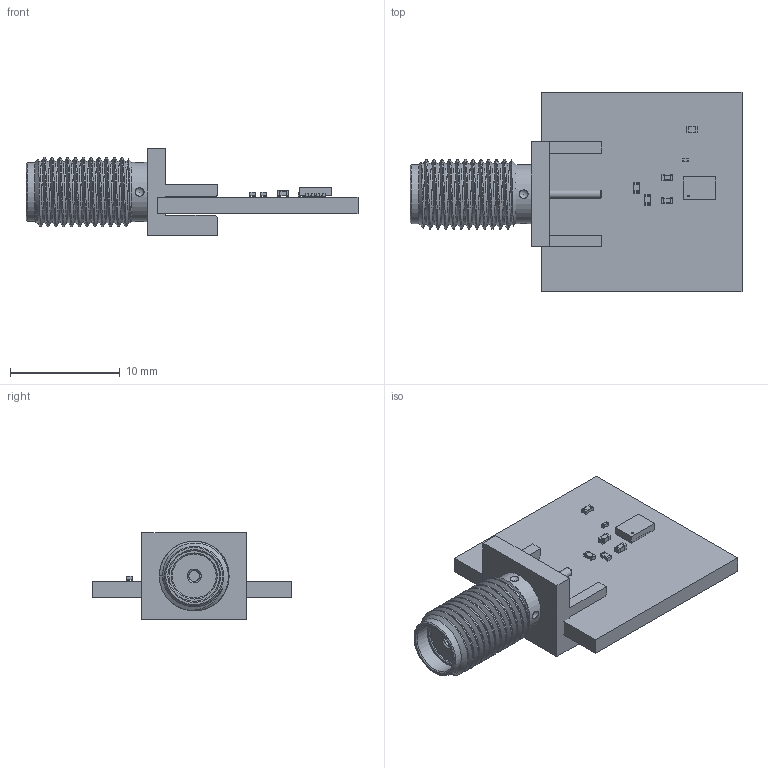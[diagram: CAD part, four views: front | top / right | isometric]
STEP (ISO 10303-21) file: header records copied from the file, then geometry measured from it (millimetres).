
FILE_DESCRIPTION(('KiCad electronic assembly'),'2;1');
FILE_NAME('ad8317_powermeter_FEM.step','2026-08-11T14:20:59',('Pcbnew'), ('Kicad'),'Open CASCADE STEP processor 7.9','KiCad to STEP converter', 'Unknown');
FILE_SCHEMA(('AUTOMOTIVE_DESIGN { 1 0 10303 214 1 1 1 1 }'));
Length unit declared in the file: millimetre
Products named in the file (20): ad8317_powermeter_FEM 1; R_0402_1005Metric; C_0402_1005Metric; SMA_Amphenol_132289_EdgeMount; LFCSP-8-1EP_3x3mm_P0.5mm_EP1.45x1.74mm; CQ assembly; b90dc85a-8c68-11ed-89d9-acde48001122; b90dc85a-8c68-11ed-89d9-acde48001122_part; b90dcca6-8c68-11ed-89d9-acde48001122; b90dcca6-8c68-11ed-89d9-acde48001122_part; b90dcdfa-8c68-11ed-89d9-acde48001122; b90dcdfa-8c68-11ed-89d9-acde48001122_part; b90dcec2-8c68-11ed-89d9-acde48001122; b90dcec2-8c68-11ed-89d9-acde48001122_part; C_0201_0603Metric; ad822B9_PCB
Assembly tree (22 placements, depth 6):
  ad8317_powermeter_FEM 1
    R_0402_1005Metric  x3
      R_0402_1005Metric
    C_0402_1005Metric  x2
      C_0402_1005Metric
    SMA_Amphenol_132289_EdgeMount
      SMA_Amphenol_132289_EdgeMount
    LFCSP-8-1EP_3x3mm_P0.5mm_EP1.45x1.74mm
      CQ assembly
        b90dc85a-8c68-11ed-89d9-acde48001122
          b90dc85a-8c68-11ed-89d9-acde48001122_part
          b90dcca6-8c68-11ed-89d9-acde48001122
            b90dcca6-8c68-11ed-89d9-acde48001122_part
          b90dcdfa-8c68-11ed-89d9-acde48001122
            b90dcdfa-8c68-11ed-89d9-acde48001122_part
          b90dcec2-8c68-11ed-89d9-acde48001122
            b90dcec2-8c68-11ed-89d9-acde48001122_part
    C_0201_0603Metric
      C_0201_0603Metric
    ad822B9_PCB
Bounding box: 30.24 x 18.2 x 7.92 mm (x, y, z)
Volume: 925.2 mm3; surface area: 1462.6 mm2
Topology: 19 solids, 19 shells, 381 faces, 923 edges, 593 vertices
Faces by surface type: plane 145, bspline 141, cylinder 83, cone 8, sphere 4
Full cylindrical faces by diameter (mm): 0.76 x1, 0.97 x1, 1.27 x1, 4 x1, 4.2 x1, 4.597 x1, 5.385 x2, 6.35 x10
Entity records: 12509 total; most frequent: CARTESIAN_POINT 5584, ORIENTED_EDGE 1422, DIRECTION 845, EDGE_CURVE 711, VERTEX_POINT 457, FACE_BOUND 316, EDGE_LOOP 316, B_SPLINE_CURVE_WITH_KNOTS 305
